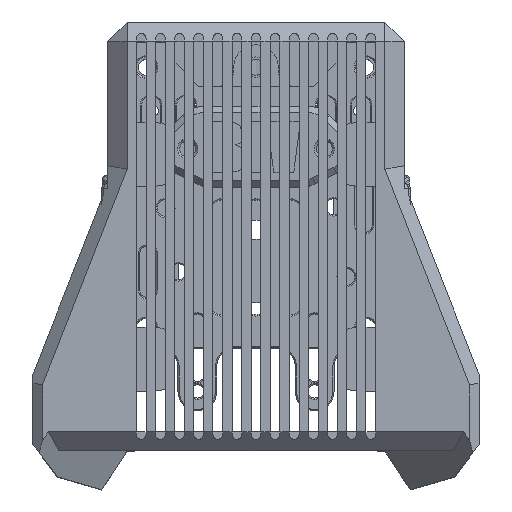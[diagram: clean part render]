
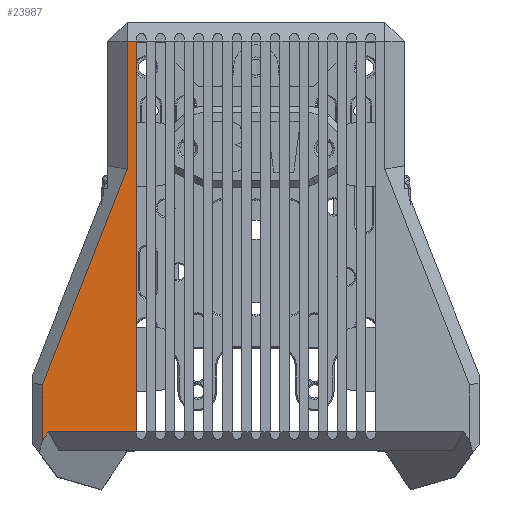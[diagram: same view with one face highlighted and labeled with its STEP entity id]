
A CAD part, top view. The second image highlights one B-rep face of the part: STEP entity #23987.
In plain terms, the highlighted planar face has unit normal (0, 0, 1).
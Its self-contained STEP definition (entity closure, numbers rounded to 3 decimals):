
#1343=PLANE('',#25616);
#2279=FACE_OUTER_BOUND('',#3605,.T.);
#3605=EDGE_LOOP('',(#19079,#19080,#19081,#19082,#19083,#19084,#19085));
#4807=LINE('',#33982,#7232);
#4810=LINE('',#33988,#7235);
#4851=LINE('',#34108,#7276);
#5614=LINE('',#38305,#8039);
#5724=LINE('',#38506,#8149);
#5725=LINE('',#38508,#8150);
#5726=LINE('',#38509,#8151);
#7232=VECTOR('',#27360,10.);
#7235=VECTOR('',#27365,10.);
#7276=VECTOR('',#27490,10.);
#8039=VECTOR('',#29551,10.);
#8149=VECTOR('',#29729,10.);
#8150=VECTOR('',#29730,10.);
#8151=VECTOR('',#29731,10.);
#10376=VERTEX_POINT('',#33973);
#10380=VERTEX_POINT('',#33980);
#10382=VERTEX_POINT('',#33987);
#10419=VERTEX_POINT('',#34106);
#11176=VERTEX_POINT('',#38303);
#11233=VERTEX_POINT('',#38505);
#11234=VERTEX_POINT('',#38507);
#12763=EDGE_CURVE('',#10380,#10376,#4807,.T.);
#12766=EDGE_CURVE('',#10376,#10382,#4810,.T.);
#12826=EDGE_CURVE('',#10419,#10380,#4851,.T.);
#13992=EDGE_CURVE('',#10419,#11176,#5614,.T.);
#14102=EDGE_CURVE('',#11176,#11233,#5724,.T.);
#14103=EDGE_CURVE('',#11234,#11233,#5725,.T.);
#14104=EDGE_CURVE('',#10382,#11234,#5726,.T.);
#19079=ORIENTED_EDGE('',*,*,#14102,.T.);
#19080=ORIENTED_EDGE('',*,*,#14103,.F.);
#19081=ORIENTED_EDGE('',*,*,#14104,.F.);
#19082=ORIENTED_EDGE('',*,*,#12766,.F.);
#19083=ORIENTED_EDGE('',*,*,#12763,.F.);
#19084=ORIENTED_EDGE('',*,*,#12826,.F.);
#19085=ORIENTED_EDGE('',*,*,#13992,.T.);
#23987=ADVANCED_FACE('',(#2279),#1343,.T.);
#25616=AXIS2_PLACEMENT_3D('',#38504,#29727,#29728);
#27360=DIRECTION('',(0.,1.,0.));
#27365=DIRECTION('',(0.365,0.931,0.));
#27490=DIRECTION('',(-0.543,-0.84,0.));
#29551=DIRECTION('',(1.,0.,0.));
#29727=DIRECTION('center_axis',(0.,0.,
1.));
#29728=DIRECTION('ref_axis',(0.,1.,0.));
#29729=DIRECTION('',(0.,1.,0.));
#29730=DIRECTION('',(1.,0.,0.));
#29731=DIRECTION('',(0.,1.,0.));
#33973=CARTESIAN_POINT('',(-33.349,-32.926,67.501));
#33980=CARTESIAN_POINT('',(-33.349,-41.674,67.501));
#33982=CARTESIAN_POINT('',(-33.349,-37.272,67.501));
#33987=CARTESIAN_POINT('',(-20.09,0.901,67.501));
#33988=CARTESIAN_POINT('',(-25.269,-12.313,67.501));
#34106=CARTESIAN_POINT('',(-32.442,-40.272,67.501));
#34108=CARTESIAN_POINT('',(-25.716,-29.881,67.501));
#38303=CARTESIAN_POINT('',(-18.612,-40.272,67.501));
#38305=CARTESIAN_POINT('',(-23.09,-40.272,67.501));
#38504=CARTESIAN_POINT('Origin',(23.366,-50.1,67.501));
#38505=CARTESIAN_POINT('',(-18.612,21.,67.501));
#38506=CARTESIAN_POINT('',(-18.612,-48.825,67.501));
#38507=CARTESIAN_POINT('',(-20.09,21.,67.501));
#38508=CARTESIAN_POINT('',(23.366,21.,67.501));
#38509=CARTESIAN_POINT('',(-20.09,-24.747,67.501));
